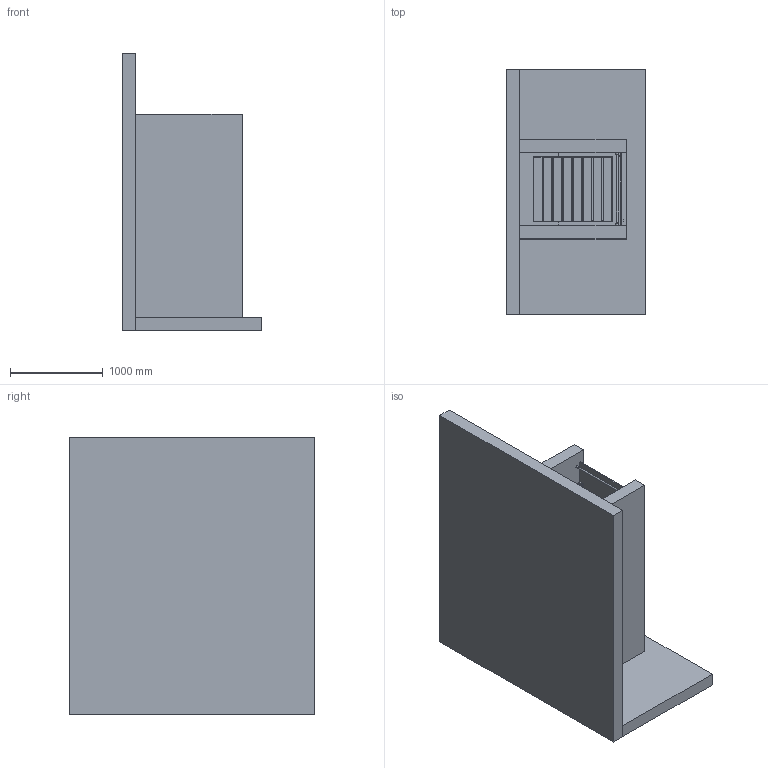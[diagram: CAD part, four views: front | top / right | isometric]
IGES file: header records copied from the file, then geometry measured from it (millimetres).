
Global section: file name: \\Archi-NAS\Comune\X GIOVANNI\SCHEDE PRODOTTO\BOX DOCCIA\DISEGNI 3D\BX 300\MOMA DESIGN_BOX DOCCIA_BX303.igs; native system: Rhinoceros ( Jan 17 2018 ); preprocessor: Trout Lake IGES 012 Jan 17 2018; date: 230623.092053; units: millimetre
Bounding box: 1502.28 x 2641.25 x 2983.36 mm (x, y, z)
Surface area: 44135344.6 mm2 (no closed solid volume)
Topology: 0 solids, 0 shells, 562 faces, 3533 edges, 4217 vertices
Faces by surface type: bspline 562
